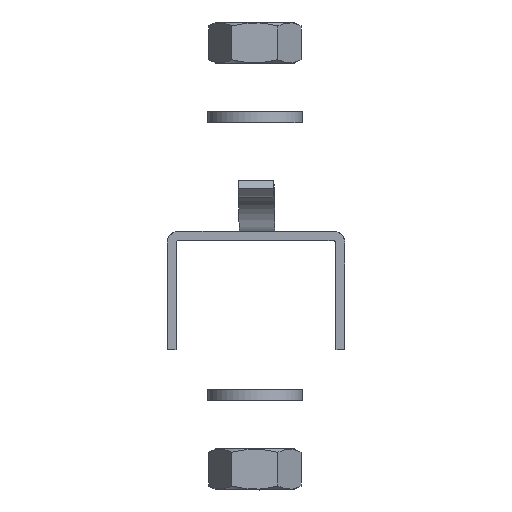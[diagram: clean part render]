
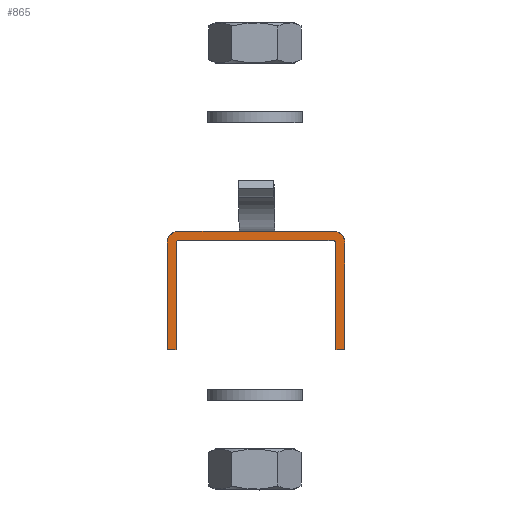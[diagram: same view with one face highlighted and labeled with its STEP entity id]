
A CAD part, front view. The second image highlights one B-rep face of the part: STEP entity #865.
In plain terms, the highlighted planar face has unit normal (0, -1, 0).
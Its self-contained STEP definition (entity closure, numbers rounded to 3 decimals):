
#19=PLANE($,#2718);
#865=ADVANCED_FACE($,(#954),#19,.T.);
#954=FACE_OUTER_BOUND($,#1049,.T.);
#1049=EDGE_LOOP($,(#1207,#1208,#1209,#1210,#1211));
#1207=ORIENTED_EDGE($,*,*,#1621,.T.);
#1208=ORIENTED_EDGE($,*,*,#1625,.T.);
#1209=ORIENTED_EDGE($,*,*,#1624,.T.);
#1210=ORIENTED_EDGE($,*,*,#1623,.T.);
#1211=ORIENTED_EDGE($,*,*,#1622,.T.);
#1621=EDGE_CURVE($,#2005,#2009,#2509,.T.);
#1622=EDGE_CURVE($,#2006,#2005,#2369,.T.);
#1623=EDGE_CURVE($,#2007,#2006,#2370,.T.);
#1624=EDGE_CURVE($,#2008,#2007,#2510,.T.);
#1625=EDGE_CURVE($,#2009,#2008,#2371,.T.);
#2005=VERTEX_POINT($,#3289);
#2006=VERTEX_POINT($,#3290);
#2007=VERTEX_POINT($,#3291);
#2008=VERTEX_POINT($,#3292);
#2009=VERTEX_POINT($,#3293);
#2369=B_SPLINE_CURVE_WITH_KNOTS($,1,(#3271,#3272),.UNSPECIFIED.,.F.,.F.,
(2,2),(-43.717,-25.717),.UNSPECIFIED.);
#2370=B_SPLINE_CURVE_WITH_KNOTS($,1,(#3273,#3274),.UNSPECIFIED.,.F.,.F.,
(2,2),(-45.217,-43.717),.UNSPECIFIED.);
#2371=B_SPLINE_CURVE_WITH_KNOTS($,1,(#3286,#3287),.UNSPECIFIED.,.F.,.F.,
(2,2),(-115.,-113.5),.UNSPECIFIED.);
#2509=(
BOUNDED_CURVE()
B_SPLINE_CURVE(2,(#3262,#3263,#3264,#3265,#3266,#3267,#3268,#3269,#3270),
.UNSPECIFIED.,.F.,.F.)
B_SPLINE_CURVE_WITH_KNOTS((3,2,2,2,3),(-160.571,-159.785,
-133.785,-133.,-115.),.UNSPECIFIED.)
CURVE()
GEOMETRIC_REPRESENTATION_ITEM()
RATIONAL_B_SPLINE_CURVE((1.,0.707,1.,1.,1.,0.707,
1.,1.,1.))
REPRESENTATION_ITEM($)
);
#2510=(
BOUNDED_CURVE()
B_SPLINE_CURVE(2,(#3275,#3276,#3277,#3278,#3279,#3280,#3281,#3282,#3283,
#3284,#3285),.UNSPECIFIED.,.F.,.F.)
B_SPLINE_CURVE_WITH_KNOTS((3,2,2,2,2,3),(-113.5,-95.5,-92.358,
-66.358,-63.217,-45.217),.UNSPECIFIED.)
CURVE()
GEOMETRIC_REPRESENTATION_ITEM()
RATIONAL_B_SPLINE_CURVE((1.,1.,1.,0.707,1.,1.,1.,0.707,
1.,1.,1.))
REPRESENTATION_ITEM($)
);
#2718=AXIS2_PLACEMENT_3D($,#3288,#2749,$);
#2749=DIRECTION($,(0.,-1.,0.));
#3262=CARTESIAN_POINT($,(-16.5,-464.969,-2.));
#3263=CARTESIAN_POINT($,(-16.5,-464.969,-1.5));
#3264=CARTESIAN_POINT($,(-16.,-464.969,-1.5));
#3265=CARTESIAN_POINT($,(-3.,-464.969,-1.5));
#3266=CARTESIAN_POINT($,(10.,-464.969,-1.5));
#3267=CARTESIAN_POINT($,(10.5,-464.969,-1.5));
#3268=CARTESIAN_POINT($,(10.5,-464.969,-2.));
#3269=CARTESIAN_POINT($,(10.5,-464.969,-11.));
#3270=CARTESIAN_POINT($,(10.5,-464.969,-20.));
#3271=CARTESIAN_POINT($,(-16.5,-464.969,-20.));
#3272=CARTESIAN_POINT($,(-16.5,-464.969,-2.));
#3273=CARTESIAN_POINT($,(-18.,-464.969,-20.));
#3274=CARTESIAN_POINT($,(-16.5,-464.969,-20.));
#3275=CARTESIAN_POINT($,(12.,-464.969,-20.));
#3276=CARTESIAN_POINT($,(12.,-464.969,-11.));
#3277=CARTESIAN_POINT($,(12.,-464.969,-2.));
#3278=CARTESIAN_POINT($,(12.,-464.969,0.));
#3279=CARTESIAN_POINT($,(10.,-464.969,0.));
#3280=CARTESIAN_POINT($,(-3.,-464.969,0.));
#3281=CARTESIAN_POINT($,(-16.,-464.969,0.));
#3282=CARTESIAN_POINT($,(-18.,-464.969,0.));
#3283=CARTESIAN_POINT($,(-18.,-464.969,-2.));
#3284=CARTESIAN_POINT($,(-18.,-464.969,-11.));
#3285=CARTESIAN_POINT($,(-18.,-464.969,-20.));
#3286=CARTESIAN_POINT($,(10.5,-464.969,-20.));
#3287=CARTESIAN_POINT($,(12.,-464.969,-20.));
#3288=CARTESIAN_POINT($,(-18.,-464.969,-20.));
#3289=CARTESIAN_POINT($,(-16.5,-464.969,-2.));
#3290=CARTESIAN_POINT($,(-16.5,-464.969,-20.));
#3291=CARTESIAN_POINT($,(-18.,-464.969,-20.));
#3292=CARTESIAN_POINT($,(12.,-464.969,-20.));
#3293=CARTESIAN_POINT($,(10.5,-464.969,-20.));
